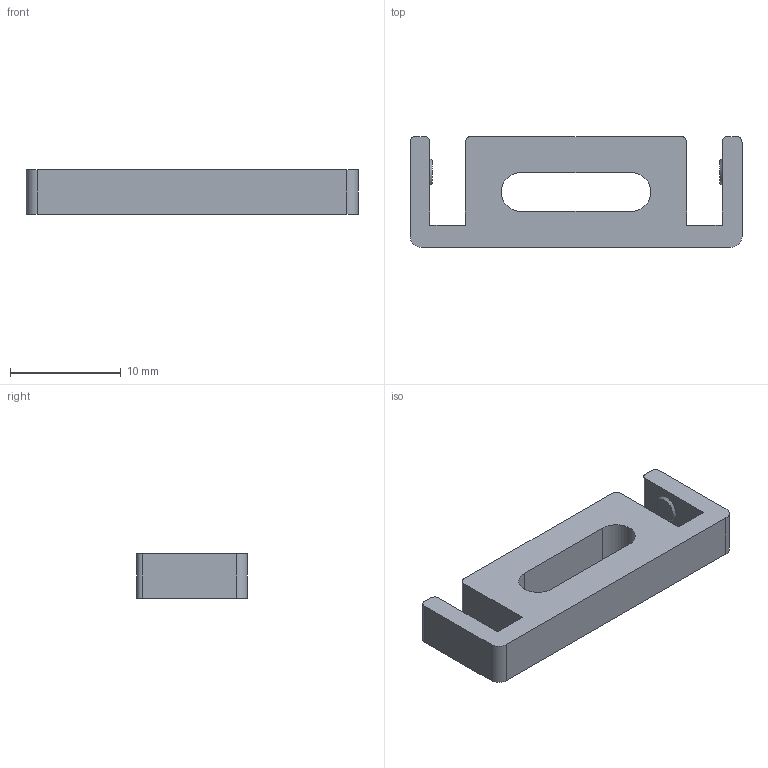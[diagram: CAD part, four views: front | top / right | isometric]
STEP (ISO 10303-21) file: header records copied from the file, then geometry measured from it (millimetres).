
FILE_DESCRIPTION(/* description */ (''),/* implementation_level */ '2;1');
FILE_NAME(/* name */ 'C:/Users/Ulises/Desktop/T1/mecanica_cad/Sturdynator.step',/* time_stamp */ '2020-10-16T01:33:46-03:00',/* author */ (''),/* organization */ (''),/* preprocessor_version */ 'ST-DEVELOPER v18.1',/* originating_system */ 'Autodesk Translation Framework v9.3.0.1241',/* authorisation */ '');
FILE_SCHEMA (('AUTOMOTIVE_DESIGN { 1 0 10303 214 3 1 1 }'));
Length unit declared in the file: millimetre
Products named in the file (1): Sturdynator
Bounding box: 30 x 10 x 4 mm (x, y, z)
Volume: 815.4 mm3; surface area: 971.5 mm2
Topology: 1 solids, 1 shells, 30 faces, 78 edges, 52 vertices
Faces by surface type: plane 18, cylinder 10, cone 2
Entity records: 970 total; most frequent: DIRECTION 164, CARTESIAN_POINT 161, ORIENTED_EDGE 156, EDGE_CURVE 78, AXIS2_PLACEMENT_3D 55, LINE 54, VECTOR 54, VERTEX_POINT 52
